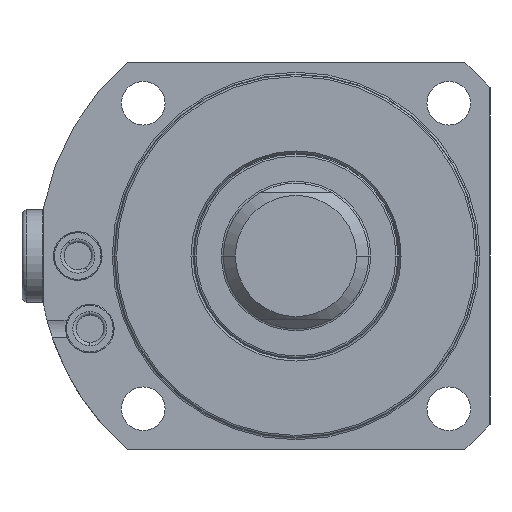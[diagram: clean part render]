
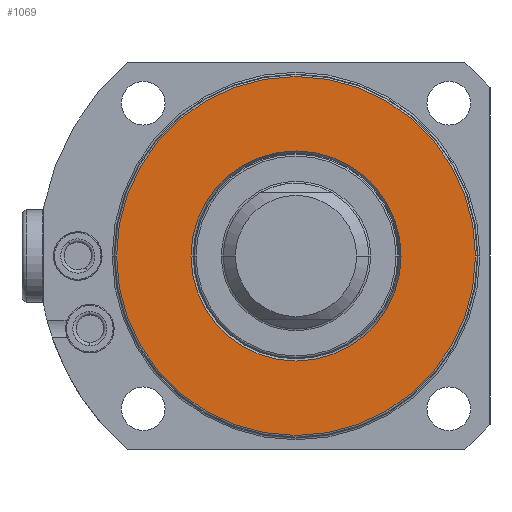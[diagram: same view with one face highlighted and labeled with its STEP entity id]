
A CAD part, front view. The second image highlights one B-rep face of the part: STEP entity #1069.
In plain terms, the highlighted planar face has unit normal (0, -1, 0).
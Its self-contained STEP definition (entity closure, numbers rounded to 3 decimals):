
#423=PLANE('',#4212);
#481=FACE_BOUND('',#1581,.T.);
#482=FACE_BOUND('',#1582,.T.);
#1069=ADVANCED_FACE('',(#481,#482),#423,.T.);
#1581=EDGE_LOOP('',(#2453,#2454));
#1582=EDGE_LOOP('',(#2455,#2456));
#2453=ORIENTED_EDGE('',*,*,#3353,.T.);
#2454=ORIENTED_EDGE('',*,*,#3442,.T.);
#2455=ORIENTED_EDGE('',*,*,#3348,.F.);
#2456=ORIENTED_EDGE('',*,*,#3443,.F.);
#2916=VERTEX_POINT('',#6673);
#2917=VERTEX_POINT('',#6674);
#2920=VERTEX_POINT('',#6682);
#2921=VERTEX_POINT('',#6684);
#3348=EDGE_CURVE('',#2916,#2917,#3692,.T.);
#3353=EDGE_CURVE('',#2921,#2920,#3696,.T.);
#3442=EDGE_CURVE('',#2920,#2921,#3739,.T.);
#3443=EDGE_CURVE('',#2917,#2916,#3740,.T.);
#3692=CIRCLE('',#4136,37.);
#3696=CIRCLE('',#4141,21.662);
#3739=CIRCLE('',#4209,21.662);
#3740=CIRCLE('',#4211,37.);
#4136=AXIS2_PLACEMENT_3D('',#6672,#5157,#5158);
#4141=AXIS2_PLACEMENT_3D('',#6683,#5168,#5169);
#4209=AXIS2_PLACEMENT_3D('',#6922,#5335,#5336);
#4211=AXIS2_PLACEMENT_3D('',#6924,#5339,#5340);
#4212=AXIS2_PLACEMENT_3D('',#6925,#5341,#5342);
#5157=DIRECTION('',(0.,1.,0.));
#5158=DIRECTION('',(-1.,0.,0.));
#5168=DIRECTION('',(0.,1.,0.));
#5169=DIRECTION('',(-1.,0.,0.));
#5335=DIRECTION('',(0.,1.,0.));
#5336=DIRECTION('',(-1.,0.,0.));
#5339=DIRECTION('',(0.,1.,0.));
#5340=DIRECTION('',(-1.,0.,0.));
#5341=DIRECTION('',(0.,-1.,0.));
#5342=DIRECTION('',(-1.,0.,0.));
#6672=CARTESIAN_POINT('',(0.,51.5,0.));
#6673=CARTESIAN_POINT('',(-37.,51.5,0.));
#6674=CARTESIAN_POINT('',(37.,51.5,0.));
#6682=CARTESIAN_POINT('',(-21.662,51.5,0.));
#6683=CARTESIAN_POINT('',(0.,51.5,0.));
#6684=CARTESIAN_POINT('',(21.662,51.5,0.));
#6922=CARTESIAN_POINT('',(0.,51.5,0.));
#6924=CARTESIAN_POINT('',(0.,51.5,0.));
#6925=CARTESIAN_POINT('',(0.,51.5,0.));
